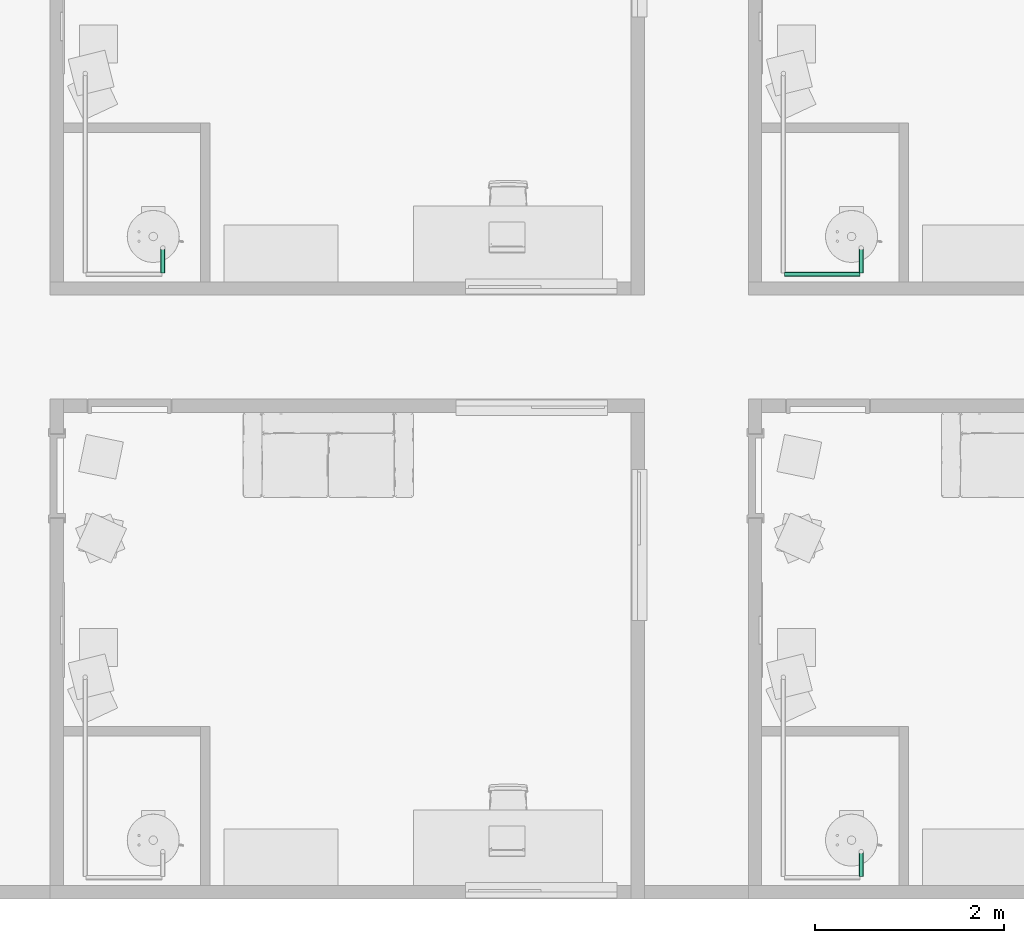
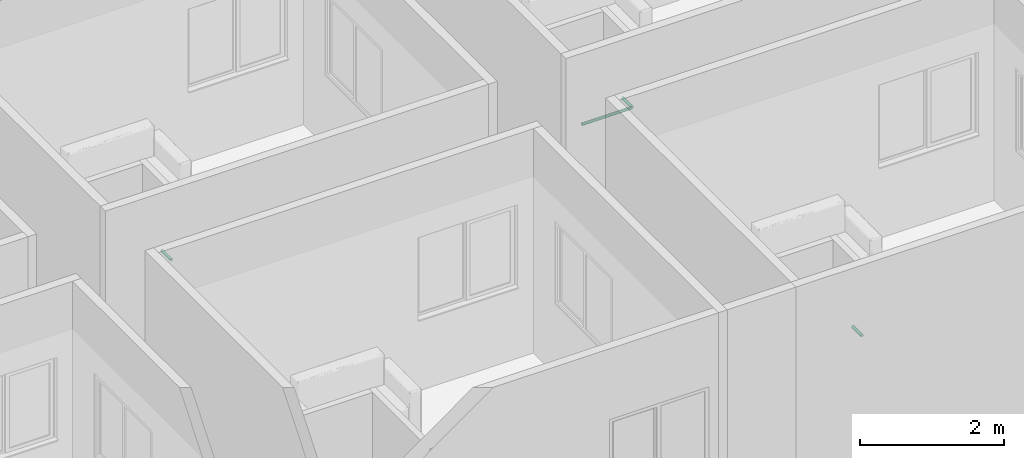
# One storey, part 42 of 69: 4 pipe segments.
"""IFC4 building model written with IfcOpenShell, lengths in centimetres."""

import ifcopenshell
import ifcopenshell.guid

model = None  # the IFC model being written
_history = None  # IfcOwnerHistory: only IFC2X3 demands one
_inside = {}  # id of a spatial element -> (the spatial element, [elements in it])
_under = {}  # id of a project, library or spatial element -> (it, [spatial elements below it])
_declared = {}  # id of a project -> (the project, [libraries it declares])
_typed = {}  # id of a type object -> (the type object, [elements of that type])
_made_of = {}  # id of a material, layer set ... -> (it, [elements and type objects made of it])


def new_model(schema):
    """Start an empty IFC model of exactly this schema.

    Asked for "IFC4X3", IfcOpenShell would pick the latest addendum, in which some entities
    have other attributes; the version numbers below select the first issue.
    IFC2X3 requires an IfcOwnerHistory on every rooted entity: one is made here for all.
    """
    global model, _history
    if schema == "IFC4X3":
        model = ifcopenshell.file(schema_version=(4, 3, 0, 0))
    else:
        model = ifcopenshell.file(schema=schema)
    _inside.clear()
    _under.clear()
    _declared.clear()
    _typed.clear()
    _made_of.clear()
    _history = None
    if model.schema == "IFC2X3":
        org = make("IfcOrganization", Name="unknown")
        user = make(
            "IfcPersonAndOrganization",
            ThePerson=make("IfcPerson", FamilyName="unknown"),
            TheOrganization=org,
        )
        app = make(
            "IfcApplication",
            ApplicationDeveloper=org,
            Version="unknown",
            ApplicationFullName="unknown",
            ApplicationIdentifier="unknown",
        )
        _history = make(
            "IfcOwnerHistory",
            OwningUser=user,
            OwningApplication=app,
            ChangeAction="ADDED",
            CreationDate=0,
        )
    return model


def make(cls, **values):
    """One entity of the class cls with the attributes given. An attribute that is None is left unset."""
    return model.create_entity(
        cls, **{name: value for name, value in values.items() if value is not None}
    )


def entity(cls, *values):
    """Any entity or typed value of the class cls, its attributes in the order of the schema. None: left unset."""
    e = model.create_entity(cls)
    for i, value in enumerate(values):
        if value is not None:
            e[i] = value
    return e


def rooted(cls, **values):
    """An entity with a GlobalId (a new one), such as an element, a storey or a relation."""
    return make(cls, GlobalId=ifcopenshell.guid.new(), OwnerHistory=_history, **values)


def si_unit(unit_type, name, prefix=None):
    """IfcSIUnit, for example si_unit("LENGTHUNIT", "METRE", prefix="MILLI")."""
    return make("IfcSIUnit", UnitType=unit_type, Prefix=prefix, Name=name)


def converted_unit(unit_type, name, factor, base, dimensions=None, offset=None):
    """IfcConversionBasedUnit, such as the inch: factor (a typed value) times the base unit."""
    return make(
        "IfcConversionBasedUnit"
        if offset is None
        else "IfcConversionBasedUnitWithOffset",
        ConversionOffset=offset,
        Dimensions=None
        if dimensions is None
        else entity("IfcDimensionalExponents", *dimensions),
        UnitType=unit_type,
        Name=name,
        ConversionFactor=make(
            "IfcMeasureWithUnit", ValueComponent=factor, UnitComponent=base
        ),
    )


def derived_unit(unit_type, elements):
    """IfcDerivedUnit: a product of units, each with its exponent."""
    return make(
        "IfcDerivedUnit",
        Elements=[
            make("IfcDerivedUnitElement", Unit=unit, Exponent=power)
            for unit, power in elements
        ],
        UnitType=unit_type,
    )


def assignment(units):
    """IfcUnitAssignment: the units of a project."""
    return None if units is None else make("IfcUnitAssignment", Units=units)


def point(xyz):
    """IfcCartesianPoint."""
    return None if xyz is None else make("IfcCartesianPoint", Coordinates=xyz)


def direction(xyz):
    """IfcDirection."""
    return None if xyz is None else make("IfcDirection", DirectionRatios=xyz)


def frame(location, z_axis=None, x_axis=None):
    """IfcAxis2Placement3D, a coordinate frame: its origin and axes. An axis left out is left unset."""
    return make(
        "IfcAxis2Placement3D",
        Location=point(location),
        Axis=direction(z_axis),
        RefDirection=direction(x_axis),
    )


def origin():
    """The frame at (0, 0, 0) with its axes left unset."""
    return frame((0.0, 0.0, 0.0))


def place(relative_to, where):
    """IfcLocalPlacement: puts the frame where relative to a parent placement (None: the world)."""
    return make(
        "IfcLocalPlacement", PlacementRelTo=relative_to, RelativePlacement=where
    )


def context(
    kind, dimensions, precision=None, world=None, true_north=None, identifier=None
):
    """IfcGeometricRepresentationContext, for example the 3D "Model" context."""
    return make(
        "IfcGeometricRepresentationContext",
        ContextIdentifier=identifier,
        ContextType=kind,
        CoordinateSpaceDimension=dimensions,
        Precision=precision,
        WorldCoordinateSystem=world,
        TrueNorth=true_north,
    )


def subcontext(parent, identifier, kind, view, scale=None):
    """IfcGeometricRepresentationSubContext, for example "Body" below "Model"."""
    return make(
        "IfcGeometricRepresentationSubContext",
        ContextIdentifier=identifier,
        ContextType=kind,
        ParentContext=parent,
        TargetScale=scale,
        TargetView=view,
    )


def project(units=None, contexts=None):
    """IfcProject with its units and contexts."""
    return rooted(
        "IfcProject",
        Name="project",
        RepresentationContexts=contexts,
        UnitsInContext=assignment(units),
    )


def spatial(cls, under=None, at=None, **own):
    """A site, building, storey or space (cls), placed at a placement, below another one or the project."""
    s = rooted(cls, ObjectPlacement=at, **own)
    if under is not None:
        _under.setdefault(under.id(), (under, []))[1].append(s)
    return s


def point_list(points):
    """IfcCartesianPointList2D or 3D."""
    cls = (
        "IfcCartesianPointList2D" if len(points[0]) == 2 else "IfcCartesianPointList3D"
    )
    return make(cls, CoordList=points)


def arc(*indices):
    """IfcArcIndex: an arc through three numbered points of an indexed curve."""
    return model.create_entity("IfcArcIndex", indices)


def indexed_curve(points, segments=None, self_intersect=None):
    """IfcIndexedPolyCurve: lines and arcs through numbered points (the first is 1)."""
    return make(
        "IfcIndexedPolyCurve",
        Points=point_list(points),
        Segments=segments,
        SelfIntersect=self_intersect,
    )


def outline(outer, holes=None, kind="AREA"):
    """IfcArbitraryClosedProfileDef: a profile drawn as a closed curve; with holes, ...WithVoids."""
    if holes is None:
        return make("IfcArbitraryClosedProfileDef", ProfileType=kind, OuterCurve=outer)
    return make(
        "IfcArbitraryProfileDefWithVoids",
        ProfileType=kind,
        OuterCurve=outer,
        InnerCurves=holes,
    )


def extrude(swept, where, along, depth):
    """IfcExtrudedAreaSolid: the profile swept, set in the frame where, extruded along a direction by depth."""
    return make(
        "IfcExtrudedAreaSolid",
        SweptArea=swept,
        Position=where,
        ExtrudedDirection=direction(along),
        Depth=depth,
    )


def shape(context_of_items, identifier, shape_type, items):
    """IfcShapeRepresentation: the items that make up one representation, for example the "Body"."""
    return make(
        "IfcShapeRepresentation",
        ContextOfItems=context_of_items,
        RepresentationIdentifier=identifier,
        RepresentationType=shape_type,
        Items=items,
    )


def made_of(thing, what):
    """Note that an element or type object is made of a material, layer set ...; save() writes the relation."""
    if what is not None:
        _made_of.setdefault(what.id(), (what, []))[1].append(thing)
    return thing


def type_object(cls, material=None, **own):
    """A type object (cls), such as IfcWallType, which elements share."""
    return made_of(rooted(cls, **own), material)


def element(
    cls,
    number,
    at=None,
    inside=None,
    cuts=None,
    type_object=None,
    material=None,
    context=None,
    identifier="Body",
    shape_type=None,
    held_by="IfcProductDefinitionShape",
    body=None,
    shapes=None,
    **own,
):
    """One element of the class cls, such as IfcWall. Its Tag is "e" and its number.

    at: its placement. inside: the storey or other place that contains it. cuts: it is an
    opening in that element (IfcRelVoidsElement). A single representation is given by context,
    identifier, shape_type and body (its items); several are given by shapes. held_by: the class
    of the entity that holds the representations. save() writes the other relations.
    """
    e = rooted(cls, Tag="e%d" % number, ObjectPlacement=at, **own)
    if body is not None:
        shapes = [shape(context, identifier, shape_type, body)]
    if shapes is not None:
        e.Representation = make(held_by, Representations=shapes)
    if inside is not None:
        _inside.setdefault(inside.id(), (inside, []))[1].append(e)
    if cuts is not None:
        rooted(
            "IfcRelVoidsElement", RelatingBuildingElement=cuts, RelatedOpeningElement=e
        )
    if type_object is not None:
        _typed.setdefault(type_object.id(), (type_object, []))[1].append(e)
    return made_of(e, material)


def aggregate(whole, parts):
    """IfcRelAggregates: a whole, such as a stair, and the parts it consists of."""
    return rooted("IfcRelAggregates", RelatingObject=whole, RelatedObjects=parts)


def save(model, path):
    """Write the relations noted so far, then the file.

    IfcRelAggregates (storeys below a building ...), IfcRelContainedInSpatialStructure (elements
    in a storey), IfcRelDefinesByType, IfcRelAssociatesMaterial and IfcRelDeclares: one each for
    every whole, place, type object, material and project.
    """
    for whole, parts in _under.values():
        aggregate(whole, parts)
    for where, things in _inside.values():
        rooted(
            "IfcRelContainedInSpatialStructure",
            RelatedElements=things,
            RelatingStructure=where,
        )
    for kind, things in _typed.values():
        rooted("IfcRelDefinesByType", RelatedObjects=things, RelatingType=kind)
    for what, things in _made_of.values():
        rooted("IfcRelAssociatesMaterial", RelatedObjects=things, RelatingMaterial=what)
    for by, libraries in _declared.values():
        rooted("IfcRelDeclares", RelatingContext=by, RelatedDefinitions=libraries)
    model.write(path)


model = new_model("IFC4")

# Units and contexts
model_context = context("Model", 3, precision=0.001, world=origin(), true_north=direction((6.123233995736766e-17, 1.0)))
body_context = subcontext(model_context, "Body", "Model", "MODEL_VIEW")
ifc_project = project(units=[si_unit("LENGTHUNIT", "METRE", prefix="CENTI"), si_unit("AREAUNIT", "SQUARE_METRE"), si_unit("VOLUMEUNIT", "CUBIC_METRE"), derived_unit("THERMALTRANSMITTANCEUNIT", [(si_unit("MASSUNIT", "GRAM", prefix="KILO"), 1), (si_unit("THERMODYNAMICTEMPERATUREUNIT", "KELVIN"), -1), (si_unit("TIMEUNIT", "SECOND"), -3)]), converted_unit("PLANEANGLEUNIT", "DEGREE", entity("IfcPlaneAngleMeasure", 0.017453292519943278), si_unit("PLANEANGLEUNIT", "RADIAN"), dimensions=[0, 0, 0, 0, 0, 0, 0]), derived_unit("MASSDENSITYUNIT", [(si_unit("MASSUNIT", "GRAM", prefix="KILO"), 1), (si_unit("LENGTHUNIT", "METRE"), -3)]), derived_unit("VAPORPERMEABILITYUNIT", [(si_unit("LENGTHUNIT", "METRE"), -1), (si_unit("TIMEUNIT", "SECOND"), 1)]), derived_unit("USERDEFINED", [(si_unit("MASSUNIT", "GRAM", prefix="KILO"), 1), (si_unit("TIMEUNIT", "SECOND"), -3), (si_unit("LENGTHUNIT", "METRE"), 3), (si_unit("ELECTRICCURRENTUNIT", "AMPERE"), -2)]), derived_unit("SPECIFICHEATCAPACITYUNIT", [(si_unit("THERMODYNAMICTEMPERATUREUNIT", "KELVIN"), -1), (si_unit("LENGTHUNIT", "METRE"), 2), (si_unit("TIMEUNIT", "SECOND"), -2)]), derived_unit("THERMALCONDUCTANCEUNIT", [(si_unit("MASSUNIT", "GRAM", prefix="KILO"), 1), (si_unit("THERMODYNAMICTEMPERATUREUNIT", "KELVIN"), -1), (si_unit("TIMEUNIT", "SECOND"), -3), (si_unit("LENGTHUNIT", "METRE"), 1)]), si_unit("PRESSUREUNIT", "PASCAL"), derived_unit("MODULUSOFELASTICITYUNIT", [(si_unit("MASSUNIT", "GRAM", prefix="KILO"), 1), (si_unit("LENGTHUNIT", "METRE"), -1), (si_unit("TIMEUNIT", "SECOND"), -2)]), derived_unit("THERMALEXPANSIONCOEFFICIENTUNIT", [(si_unit("THERMODYNAMICTEMPERATUREUNIT", "KELVIN"), -1)])], contexts=[model_context])

# Site, building, storey
site_placement = place(None, origin())
site = spatial("IfcSite", under=ifc_project, at=site_placement, Name="Default", CompositionType="ELEMENT")
building_placement = place(site_placement, origin())
building = spatial("IfcBuilding", under=site, at=building_placement, Name="IDS Escape Game Building", CompositionType="ELEMENT")
storey_placement = place(building_placement, origin())
storey = spatial("IfcBuildingStorey", under=building, at=storey_placement, Name="00_Ground Floor", CompositionType="ELEMENT", Elevation=0.0)

# Pipe segments
pipe_segment_type = type_object("IfcPipeSegmentType", Name="Pipe Types:Piping Aluminum", PredefinedType="NOTDEFINED")
pipe_segment_1_placement = place(storey_placement, origin())
element("IfcPipeSegment", 1, at=pipe_segment_1_placement, inside=storey, type_object=pipe_segment_type, Name="Pipe Types:Piping Aluminum", ObjectType="Pipe Types:Piping Aluminum", PredefinedType="NOTDEFINED", context=body_context, shape_type="SweptSolid", body=[
    extrude(outline(indexed_curve([(2.4129999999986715, -2.7071678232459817e-14), (1.7062486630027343, 1.7062486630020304), (1.7325874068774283e-12, 2.412999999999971), (-1.7062486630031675, 1.7062486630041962), (-2.413000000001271, -2.7071678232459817e-14), (-1.7062486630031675, -1.7062486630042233), (1.7325874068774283e-12, -2.413000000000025), (1.7062486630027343, -1.7062486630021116)], segments=[arc(1, 2, 3), arc(3, 4, 5), arc(5, 6, 7), arc(7, 8, 1)], self_intersect=False)), frame((3064.1500000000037, 22.364827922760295, 242.0), z_axis=(0.0, 1.0, 0.0), x_axis=(-1.0, 0.0, 0.0)), (0.0, 0.0, 1.0), 25.435172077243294),
])
pipe_segment_2_placement = place(storey_placement, origin())
element("IfcPipeSegment", 2, at=pipe_segment_2_placement, inside=storey, type_object=pipe_segment_type, Name="Pipe Types:Piping Aluminum", ObjectType="Pipe Types:Piping Aluminum", PredefinedType="NOTDEFINED", context=body_context, shape_type="SweptSolid", body=[
    extrude(outline(indexed_curve([(2.4129999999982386, -2.7071678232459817e-14), (1.706248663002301, 1.7062486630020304), (1.2994405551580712e-12, 2.412999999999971), (-1.7062486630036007, 1.7062486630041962), (-2.413000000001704, -2.7071678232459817e-14), (-1.7062486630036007, -1.7062486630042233), (1.2994405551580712e-12, -2.413000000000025), (1.706248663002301, -1.7062486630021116)], segments=[arc(1, 2, 3), arc(3, 4, 5), arc(5, 6, 7), arc(7, 8, 1)], self_intersect=False)), frame((2326.1500000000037, 660.3648279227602, 242.0), z_axis=(0.0, 1.0, 0.0), x_axis=(-1.0, 0.0, 0.0)), (0.0, 0.0, 1.0), 25.43517207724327),
])
pipe_segment_3_placement = place(storey_placement, origin())
element("IfcPipeSegment", 3, at=pipe_segment_3_placement, inside=storey, type_object=pipe_segment_type, Name="Pipe Types:Piping Aluminum", ObjectType="Pipe Types:Piping Aluminum", PredefinedType="NOTDEFINED", context=body_context, shape_type="SweptSolid", body=[
    extrude(outline(indexed_curve([(2.4129999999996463, -2.165734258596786e-13), (1.7062486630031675, 1.7062486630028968), (4.331468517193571e-13, 2.4130000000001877), (-1.7062486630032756, 1.7062486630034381), (-2.413000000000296, -1.6243006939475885e-13), (-1.706248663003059, -1.7062486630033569), (4.3314685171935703e-13, -2.412999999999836), (1.7062486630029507, -1.7062486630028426)], segments=[arc(1, 2, 3), arc(3, 4, 5), arc(5, 6, 7), arc(7, 8, 1)], self_intersect=False)), frame((2983.14671687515, 659.2648279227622, 242.0), z_axis=(1.0, 0.0, 0.0), x_axis=(0.0, 1.0, 0.0)), (0.0, 0.0, 1.0), 79.90328312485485),
])
pipe_segment_4_placement = place(storey_placement, origin())
element("IfcPipeSegment", 4, at=pipe_segment_4_placement, inside=storey, type_object=pipe_segment_type, Name="Pipe Types:Piping Aluminum", ObjectType="Pipe Types:Piping Aluminum", PredefinedType="NOTDEFINED", context=body_context, shape_type="SweptSolid", body=[
    extrude(outline(indexed_curve([(2.4129999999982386, -2.7071678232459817e-14), (1.706248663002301, 1.7062486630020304), (1.2994405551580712e-12, 2.412999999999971), (-1.7062486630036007, 1.7062486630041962), (-2.413000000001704, -2.7071678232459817e-14), (-1.7062486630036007, -1.7062486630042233), (1.2994405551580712e-12, -2.413000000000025), (1.706248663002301, -1.7062486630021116)], segments=[arc(1, 2, 3), arc(3, 4, 5), arc(5, 6, 7), arc(7, 8, 1)], self_intersect=False)), frame((3064.150000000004, 660.3648279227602, 242.0), z_axis=(0.0, 1.0, 0.0), x_axis=(-1.0, 0.0, 0.0)), (0.0, 0.0, 1.0), 25.43517207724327),
])

save(model, "model.ifc")
